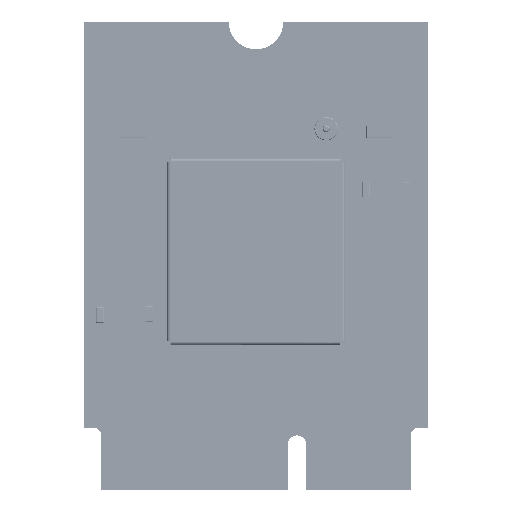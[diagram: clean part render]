
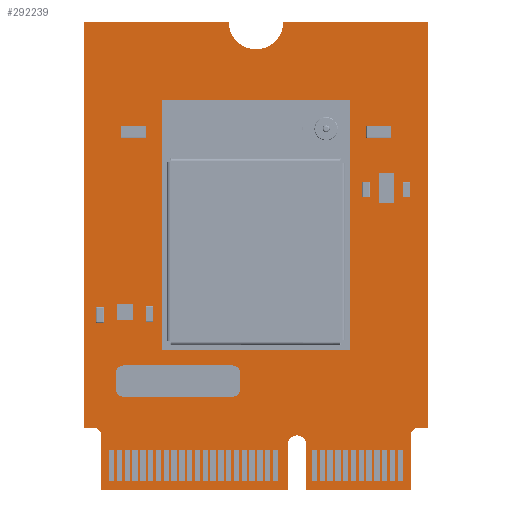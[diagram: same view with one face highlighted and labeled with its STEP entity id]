
A CAD part, top view. The second image highlights one B-rep face of the part: STEP entity #292239.
In plain terms, the highlighted planar face has unit normal (0, 0, 1).
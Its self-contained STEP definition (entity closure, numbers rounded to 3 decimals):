
#1862 = CARTESIAN_POINT ( 'NONE',  ( 10.425, -12.982, 0. ) ) ;
#3305 = CIRCLE ( 'NONE', #636766, 0.5 ) ;
#3469 = DIRECTION ( 'NONE',  ( -1., 0., 0. ) ) ;
#9323 = DIRECTION ( 'NONE',  ( 1., 0.001, 0. ) ) ;
#14025 = CARTESIAN_POINT ( 'NONE',  ( 9.925, -16.982, 0. ) ) ;
#17449 = AXIS2_PLACEMENT_3D ( 'NONE', #313813, #269274, #9323 ) ;
#39665 = VERTEX_POINT ( 'NONE', #1862 ) ;
#41476 = DIRECTION ( 'NONE',  ( 0., 1., 0. ) ) ;
#43487 = AXIS2_PLACEMENT_3D ( 'NONE', #351914, #60145, #608248 ) ;
#60145 = DIRECTION ( 'NONE',  ( 0., 0., 1. ) ) ;
#60843 = CARTESIAN_POINT ( 'NONE',  ( 3.225, -16.982, 0. ) ) ;
#62945 = EDGE_LOOP ( 'NONE', ( #192877, #590098, #405839, #64858, #431622, #337798, #126293, #174274, #404647, #459613, #348263, #63397, #299060, #379283, #311680, #415944 ) ) ;
#63397 = ORIENTED_EDGE ( 'NONE', *, *, #119164, .F. ) ;
#64858 = ORIENTED_EDGE ( 'NONE', *, *, #221314, .F. ) ;
#73655 = EDGE_CURVE ( 'NONE', #480692, #462961, #354816, .T. ) ;
#77204 = CARTESIAN_POINT ( 'NONE',  ( -10.999, 13.018, 0. ) ) ;
#78234 = CARTESIAN_POINT ( 'NONE',  ( 10.999, -12.982, 0. ) ) ;
#90189 = CARTESIAN_POINT ( 'NONE',  ( -9.925, -13.482, 0. ) ) ;
#96932 = VECTOR ( 'NONE', #500799, 1000. ) ;
#117444 = LINE ( 'NONE', #373942, #129411 ) ;
#119164 = EDGE_CURVE ( 'NONE', #672056, #442082, #494126, .T. ) ;
#120812 = DIRECTION ( 'NONE',  ( 0., -1., 0. ) ) ;
#121011 = DIRECTION ( 'NONE',  ( 1., 0., 0. ) ) ;
#126293 = ORIENTED_EDGE ( 'NONE', *, *, #272270, .F. ) ;
#129411 = VECTOR ( 'NONE', #120812, 1000. ) ;
#134197 = DIRECTION ( 'NONE',  ( 1., 0., 0. ) ) ;
#143074 = VECTOR ( 'NONE', #427488, 1000. ) ;
#155009 = VECTOR ( 'NONE', #607709, 1000. ) ;
#168511 = DIRECTION ( 'NONE',  ( 0., 0., -1. ) ) ;
#170512 = CARTESIAN_POINT ( 'NONE',  ( 10.999, 13.018, 0. ) ) ;
#174274 = ORIENTED_EDGE ( 'NONE', *, *, #307385, .F. ) ;
#174402 = LINE ( 'NONE', #649493, #143074 ) ;
#175703 = CARTESIAN_POINT ( 'NONE',  ( 1.751, 13.018, 0. ) ) ;
#184982 = DIRECTION ( 'NONE',  ( 0., -1., 0. ) ) ;
#188797 = DIRECTION ( 'NONE',  ( 0., 0., 1. ) ) ;
#192877 = ORIENTED_EDGE ( 'NONE', *, *, #73655, .F. ) ;
#204307 = DIRECTION ( 'NONE',  ( -1., 0., 0. ) ) ;
#206285 = EDGE_CURVE ( 'NONE', #540161, #658856, #117444, .T. ) ;
#210821 = CARTESIAN_POINT ( 'NONE',  ( -9.925, -16.982, 0. ) ) ;
#221314 = EDGE_CURVE ( 'NONE', #336445, #647782, #416503, .T. ) ;
#229414 = LINE ( 'NONE', #14025, #660384 ) ;
#234321 = LINE ( 'NONE', #340190, #96932 ) ;
#249182 = CARTESIAN_POINT ( 'NONE',  ( 3.225, -14.082, 0. ) ) ;
#263103 = VECTOR ( 'NONE', #3469, 1000. ) ;
#269274 = DIRECTION ( 'NONE',  ( 0., 0., 1. ) ) ;
#272270 = EDGE_CURVE ( 'NONE', #39665, #441691, #3305, .T. ) ;
#276035 = VECTOR ( 'NONE', #465568, 1000. ) ;
#276193 = VERTEX_POINT ( 'NONE', #636576 ) ;
#282740 = CARTESIAN_POINT ( 'NONE',  ( -10.999, 13.018, 0. ) ) ;
#290099 = CIRCLE ( 'NONE', #322682, 0.5 ) ;
#292239 = ADVANCED_FACE ( 'NONE', ( #513852 ), #507181, .F. ) ;
#298178 = EDGE_CURVE ( 'NONE', #437684, #480692, #174402, .T. ) ;
#299060 = ORIENTED_EDGE ( 'NONE', *, *, #568462, .F. ) ;
#307385 = EDGE_CURVE ( 'NONE', #658856, #39665, #407026, .T. ) ;
#311680 = ORIENTED_EDGE ( 'NONE', *, *, #439682, .F. ) ;
#313813 = CARTESIAN_POINT ( 'NONE',  ( 2.625, -14.082, 0. ) ) ;
#318926 = VECTOR ( 'NONE', #184982, 1000. ) ;
#322682 = AXIS2_PLACEMENT_3D ( 'NONE', #458746, #188797, #134197 ) ;
#335009 = EDGE_CURVE ( 'NONE', #441691, #505635, #495939, .T. ) ;
#336445 = VERTEX_POINT ( 'NONE', #420799 ) ;
#337798 = ORIENTED_EDGE ( 'NONE', *, *, #335009, .F. ) ;
#337866 = CARTESIAN_POINT ( 'NONE',  ( -9.925, -16.982, 0. ) ) ;
#338158 = CIRCLE ( 'NONE', #43487, 1.75 ) ;
#340190 = CARTESIAN_POINT ( 'NONE',  ( -10.425, -12.982, 0. ) ) ;
#348263 = ORIENTED_EDGE ( 'NONE', *, *, #351266, .F. ) ;
#348399 = VECTOR ( 'NONE', #419936, 1000. ) ;
#351266 = EDGE_CURVE ( 'NONE', #442082, #276193, #338158, .T. ) ;
#351914 = CARTESIAN_POINT ( 'NONE',  ( 0.001, 13.017, 0. ) ) ;
#354816 = LINE ( 'NONE', #672668, #668979 ) ;
#373942 = CARTESIAN_POINT ( 'NONE',  ( 10.999, 13.018, 0. ) ) ;
#379283 = ORIENTED_EDGE ( 'NONE', *, *, #482170, .F. ) ;
#379540 = VECTOR ( 'NONE', #121011, 1000. ) ;
#380241 = CARTESIAN_POINT ( 'NONE',  ( 0.15, -2.405, 0. ) ) ;
#386744 = CARTESIAN_POINT ( 'NONE',  ( -10.425, -12.982, 0. ) ) ;
#392400 = LINE ( 'NONE', #337866, #155009 ) ;
#397546 = LINE ( 'NONE', #175703, #379540 ) ;
#404647 = ORIENTED_EDGE ( 'NONE', *, *, #206285, .F. ) ;
#405839 = ORIENTED_EDGE ( 'NONE', *, *, #578580, .F. ) ;
#407026 = LINE ( 'NONE', #458392, #263103 ) ;
#410843 = LINE ( 'NONE', #571296, #276035 ) ;
#415944 = ORIENTED_EDGE ( 'NONE', *, *, #484685, .F. ) ;
#416503 = LINE ( 'NONE', #60843, #348399 ) ;
#416790 = VERTEX_POINT ( 'NONE', #90189 ) ;
#419936 = DIRECTION ( 'NONE',  ( 0., 1., 0. ) ) ;
#420799 = CARTESIAN_POINT ( 'NONE',  ( 3.225, -16.982, 0. ) ) ;
#427488 = DIRECTION ( 'NONE',  ( 0., -1., 0. ) ) ;
#427816 = DIRECTION ( 'NONE',  ( -1., 0., 0. ) ) ;
#428007 = AXIS2_PLACEMENT_3D ( 'NONE', #380241, #168511, #530717 ) ;
#431622 = ORIENTED_EDGE ( 'NONE', *, *, #530054, .F. ) ;
#437684 = VERTEX_POINT ( 'NONE', #501697 ) ;
#439682 = EDGE_CURVE ( 'NONE', #416790, #600386, #290099, .T. ) ;
#441691 = VERTEX_POINT ( 'NONE', #524412 ) ;
#442082 = VERTEX_POINT ( 'NONE', #492702 ) ;
#455763 = EDGE_CURVE ( 'NONE', #276193, #540161, #397546, .T. ) ;
#458392 = CARTESIAN_POINT ( 'NONE',  ( 10.999, -12.982, 0. ) ) ;
#458746 = CARTESIAN_POINT ( 'NONE',  ( -10.425, -13.482, 0. ) ) ;
#459613 = ORIENTED_EDGE ( 'NONE', *, *, #455763, .F. ) ;
#462961 = VERTEX_POINT ( 'NONE', #210821 ) ;
#465568 = DIRECTION ( 'NONE',  ( 0., 1., 0. ) ) ;
#480692 = VERTEX_POINT ( 'NONE', #522113 ) ;
#482170 = EDGE_CURVE ( 'NONE', #600386, #644652, #234321, .T. ) ;
#484685 = EDGE_CURVE ( 'NONE', #462961, #416790, #392400, .T. ) ;
#492702 = CARTESIAN_POINT ( 'NONE',  ( -1.749, 13.018, 0. ) ) ;
#494126 = LINE ( 'NONE', #77204, #645370 ) ;
#495939 = LINE ( 'NONE', #653369, #318926 ) ;
#500799 = DIRECTION ( 'NONE',  ( -1., 0., 0. ) ) ;
#501697 = CARTESIAN_POINT ( 'NONE',  ( 2.026, -14.082, 0. ) ) ;
#505635 = VERTEX_POINT ( 'NONE', #628700 ) ;
#507181 = PLANE ( 'NONE',  #428007 ) ;
#513852 = FACE_OUTER_BOUND ( 'NONE', #62945, .T. ) ;
#522113 = CARTESIAN_POINT ( 'NONE',  ( 2.026, -16.982, 0. ) ) ;
#524412 = CARTESIAN_POINT ( 'NONE',  ( 9.925, -13.482, 0. ) ) ;
#530054 = EDGE_CURVE ( 'NONE', #505635, #336445, #229414, .T. ) ;
#530717 = DIRECTION ( 'NONE',  ( 0., -1., 0. ) ) ;
#540161 = VERTEX_POINT ( 'NONE', #170512 ) ;
#552199 = DIRECTION ( 'NONE',  ( 1., 0., 0. ) ) ;
#568462 = EDGE_CURVE ( 'NONE', #644652, #672056, #410843, .T. ) ;
#571296 = CARTESIAN_POINT ( 'NONE',  ( -10.999, -12.982, 0. ) ) ;
#574144 = CIRCLE ( 'NONE', #17449, 0.6 ) ;
#574353 = DIRECTION ( 'NONE',  ( 0., 0., 1. ) ) ;
#578580 = EDGE_CURVE ( 'NONE', #647782, #437684, #574144, .T. ) ;
#590098 = ORIENTED_EDGE ( 'NONE', *, *, #298178, .F. ) ;
#600386 = VERTEX_POINT ( 'NONE', #386744 ) ;
#607709 = DIRECTION ( 'NONE',  ( 0., 1., 0. ) ) ;
#608248 = DIRECTION ( 'NONE',  ( -1., 0.001, 0. ) ) ;
#628700 = CARTESIAN_POINT ( 'NONE',  ( 9.925, -16.982, 0. ) ) ;
#633109 = CARTESIAN_POINT ( 'NONE',  ( -10.999, -12.982, 0. ) ) ;
#636576 = CARTESIAN_POINT ( 'NONE',  ( 1.751, 13.018, 0. ) ) ;
#636766 = AXIS2_PLACEMENT_3D ( 'NONE', #667011, #574353, #41476 ) ;
#644652 = VERTEX_POINT ( 'NONE', #633109 ) ;
#645370 = VECTOR ( 'NONE', #552199, 1000. ) ;
#647782 = VERTEX_POINT ( 'NONE', #249182 ) ;
#649493 = CARTESIAN_POINT ( 'NONE',  ( 2.026, -14.082, 0. ) ) ;
#653369 = CARTESIAN_POINT ( 'NONE',  ( 9.925, -13.482, 0. ) ) ;
#658856 = VERTEX_POINT ( 'NONE', #78234 ) ;
#660384 = VECTOR ( 'NONE', #427816, 1000. ) ;
#667011 = CARTESIAN_POINT ( 'NONE',  ( 10.425, -13.482, 0. ) ) ;
#668979 = VECTOR ( 'NONE', #204307, 1000. ) ;
#672056 = VERTEX_POINT ( 'NONE', #282740 ) ;
#672668 = CARTESIAN_POINT ( 'NONE',  ( 2.026, -16.982, 0. ) ) ;
